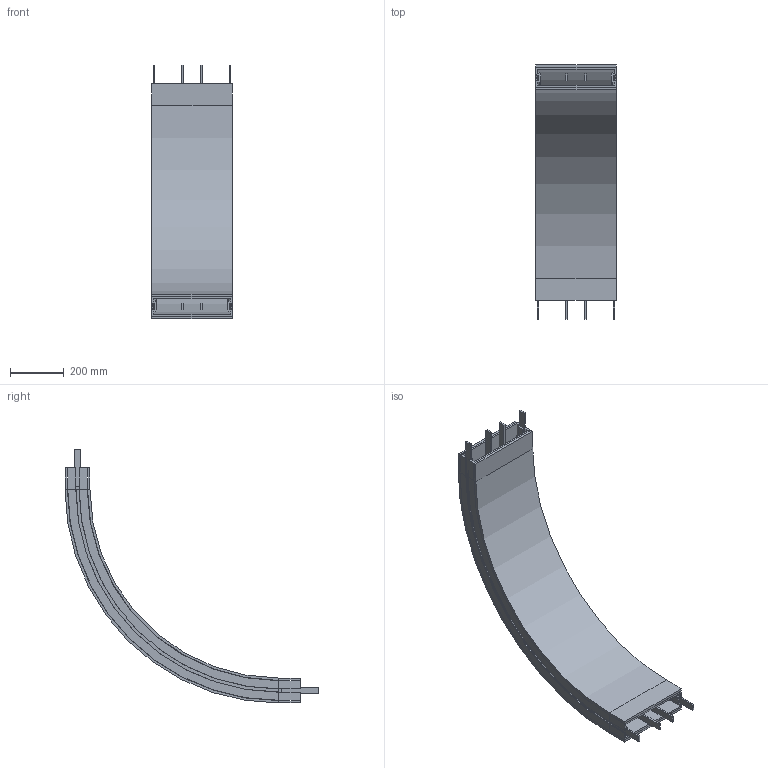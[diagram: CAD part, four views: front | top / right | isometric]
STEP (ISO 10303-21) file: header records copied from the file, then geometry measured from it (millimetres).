
FILE_DESCRIPTION (( 'STEP AP214' ), '1' );
FILE_NAME ('FBBV 90A300R750L80L80.00.step', '2026-05-29T10:33:45', ( '' ), ( '' ), 'SwSTEP 2.0', 'SolidWorks 2024', '' );
FILE_SCHEMA (( 'AUTOMOTIVE_DESIGN' ));
Length unit declared in the file: millimetre
Products named in the file (1): FBBV 90A300R750L80L80.00
Bounding box: 300 x 946.5 x 946.5 mm (x, y, z)
Volume: 14617719.5 mm3; surface area: 3811844.7 mm2
Topology: 11 solids, 11 shells, 375 faces, 845 edges, 492 vertices
Faces by surface type: plane 278, cone 66, cylinder 26, torus 5
Entity records: 10191 total; most frequent: DIRECTION 1724, CARTESIAN_POINT 1713, ORIENTED_EDGE 1690, EDGE_CURVE 845, VECTOR 718, LINE 718, AXIS2_PLACEMENT_3D 503, VERTEX_POINT 492
